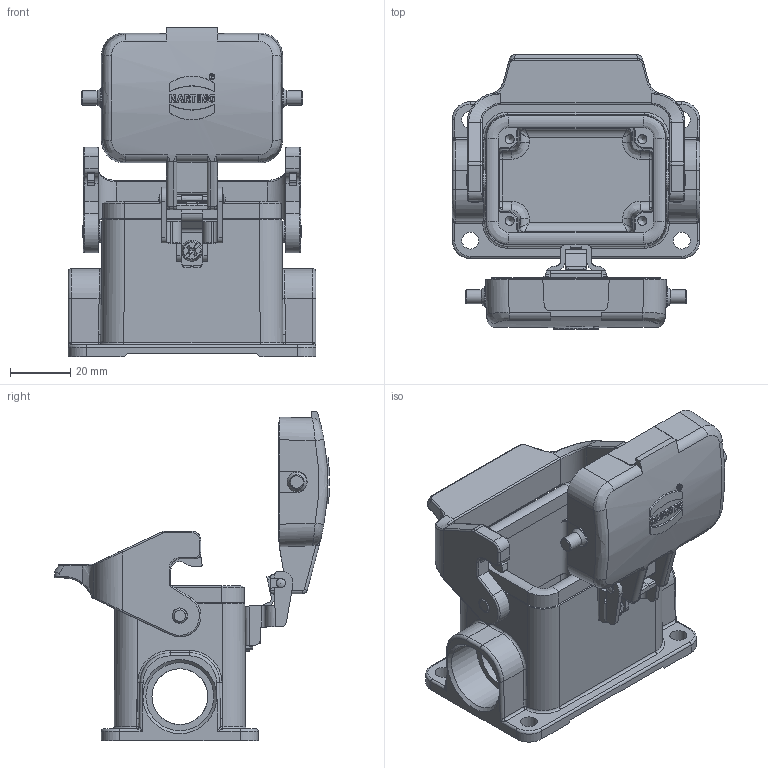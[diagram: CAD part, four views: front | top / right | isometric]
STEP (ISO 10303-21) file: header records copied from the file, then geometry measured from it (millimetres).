
FILE_DESCRIPTION(/* description */ (''),/* implementation_level */ '2;1');
FILE_NAME(/* name */ '100595158ugm000_a.stp',/* time_stamp */ '2022-03-11T20:48:41+01:00',/* author */ (''),/* organization */ (''),/* preprocessor_version */ 'ST-DEVELOPER v16.7',/* originating_system */ 'SIEMENS PLM Software NX 1911',/* authorisation */ '');
FILE_SCHEMA (('AUTOMOTIVE_DESIGN { 1 0 10303 214 3 1 1 1 }'));
Length unit declared in the file: millimetre
Products named in the file (1): 100595158ugm000_a
Bounding box: 82 x 91.05 x 109.29 mm (x, y, z)
Volume: 88981.6 mm3; surface area: 49982.7 mm2
Topology: 3 solids, 3 shells, 883 faces, 2298 edges, 1423 vertices
Faces by surface type: plane 310, cylinder 284, bspline 215, cone 33, torus 17, extrusion 16, sphere 8
Full cylindrical faces by diameter (mm): 2 x2, 2.95 x1, 3 x6, 4 x3, 4.75 x2, 4.8 x2, 5 x2, 5.1 x2, 5.6 x4, 6.5 x2, 7 x3, 18.5 x2, 22.5 x2
Entity records: 36722 total; most frequent: CARTESIAN_POINT 13506, ORIENTED_EDGE 4346, DIRECTION 3664, EDGE_CURVE 2173, VERTEX_POINT 1391, AXIS2_PLACEMENT_3D 1344, EDGE_LOOP 1001, VECTOR 976
